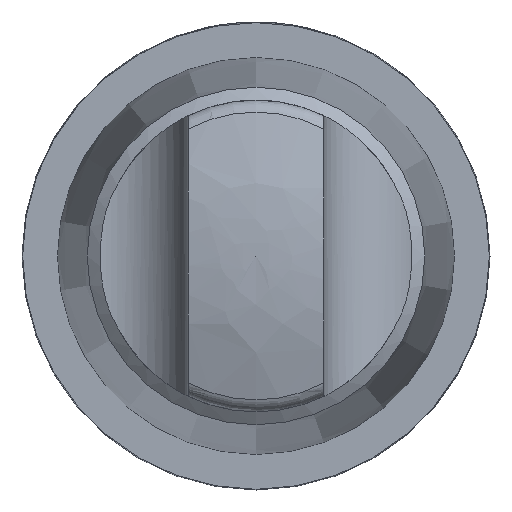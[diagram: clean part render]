
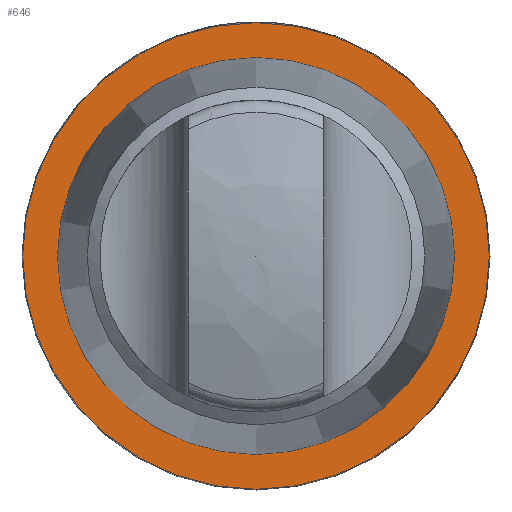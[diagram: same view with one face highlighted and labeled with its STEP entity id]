
A CAD part, left-side view. The second image highlights one B-rep face of the part: STEP entity #646.
In plain terms, the highlighted planar face has unit normal (-1, 0, 0).
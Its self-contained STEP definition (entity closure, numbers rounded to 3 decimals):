
#22=PLANE('',#721);
#38=FACE_BOUND('',#144,.T.);
#39=CIRCLE('',#672,26.275);
#40=CIRCLE('',#673,26.275);
#68=CIRCLE('',#722,22.2);
#69=CIRCLE('',#723,22.2);
#108=FACE_OUTER_BOUND('',#143,.T.);
#143=EDGE_LOOP('',(#558,#559));
#144=EDGE_LOOP('',(#560,#561));
#240=VERTEX_POINT('',#1078);
#241=VERTEX_POINT('',#1079);
#298=VERTEX_POINT('',#1892);
#299=VERTEX_POINT('',#1893);
#308=EDGE_CURVE('',#240,#241,#39,.T.);
#309=EDGE_CURVE('',#241,#240,#40,.T.);
#389=EDGE_CURVE('',#298,#299,#68,.T.);
#390=EDGE_CURVE('',#299,#298,#69,.T.);
#558=ORIENTED_EDGE('',*,*,#308,.T.);
#559=ORIENTED_EDGE('',*,*,#309,.T.);
#560=ORIENTED_EDGE('',*,*,#389,.F.);
#561=ORIENTED_EDGE('',*,*,#390,.F.);
#646=ADVANCED_FACE('',(#108,#38),#22,.T.);
#672=AXIS2_PLACEMENT_3D('',#1080,#738,#739);
#673=AXIS2_PLACEMENT_3D('',#1081,#740,#741);
#721=AXIS2_PLACEMENT_3D('',#1891,#861,#862);
#722=AXIS2_PLACEMENT_3D('',#1894,#863,#864);
#723=AXIS2_PLACEMENT_3D('',#1895,#865,#866);
#738=DIRECTION('center_axis',(-1.,0.,0.));
#739=DIRECTION('ref_axis',(0.,0.,1.));
#740=DIRECTION('center_axis',(-1.,0.,0.));
#741=DIRECTION('ref_axis',(0.,0.,1.));
#861=DIRECTION('center_axis',(-1.,0.,0.));
#862=DIRECTION('ref_axis',(0.,0.,1.));
#863=DIRECTION('center_axis',(-1.,0.,0.));
#864=DIRECTION('ref_axis',(0.,0.,1.));
#865=DIRECTION('center_axis',(-1.,0.,0.));
#866=DIRECTION('ref_axis',(0.,0.,1.));
#1078=CARTESIAN_POINT('',(126.5,0.,26.275));
#1079=CARTESIAN_POINT('',(126.5,0.,-26.275));
#1080=CARTESIAN_POINT('Origin',(126.5,0.,0.));
#1081=CARTESIAN_POINT('Origin',(126.5,0.,0.));
#1891=CARTESIAN_POINT('Origin',(126.5,0.,22.2));
#1892=CARTESIAN_POINT('',(126.5,0.,22.2));
#1893=CARTESIAN_POINT('',(126.5,0.,-22.2));
#1894=CARTESIAN_POINT('Origin',(126.5,0.,0.));
#1895=CARTESIAN_POINT('Origin',(126.5,0.,0.));
